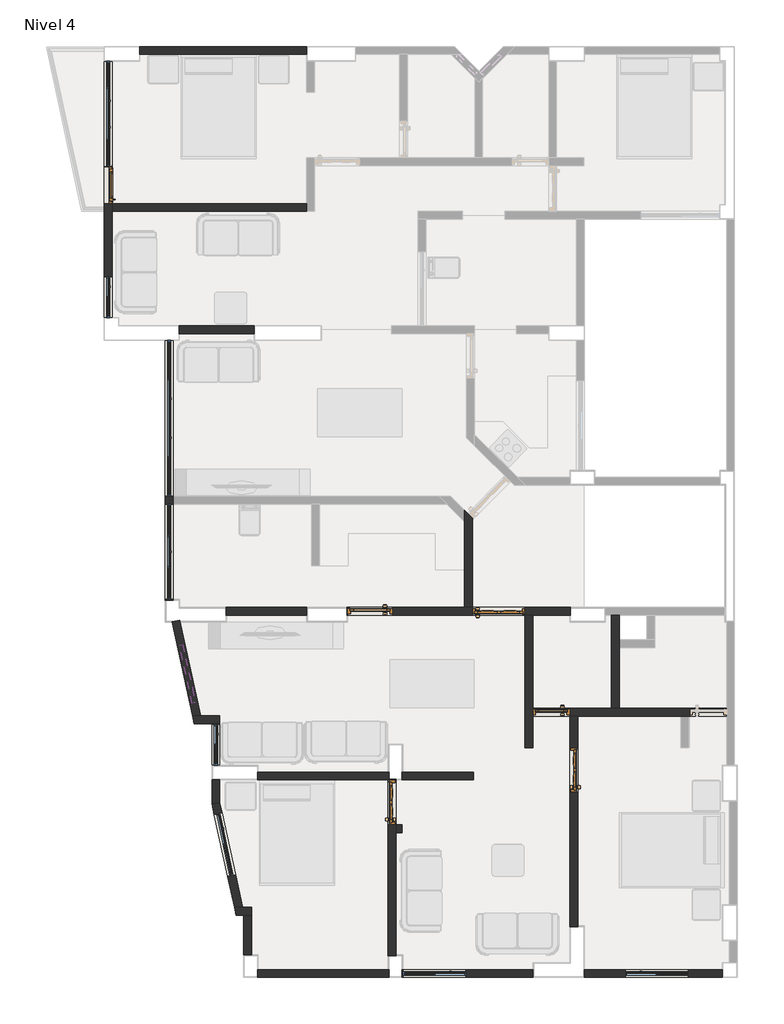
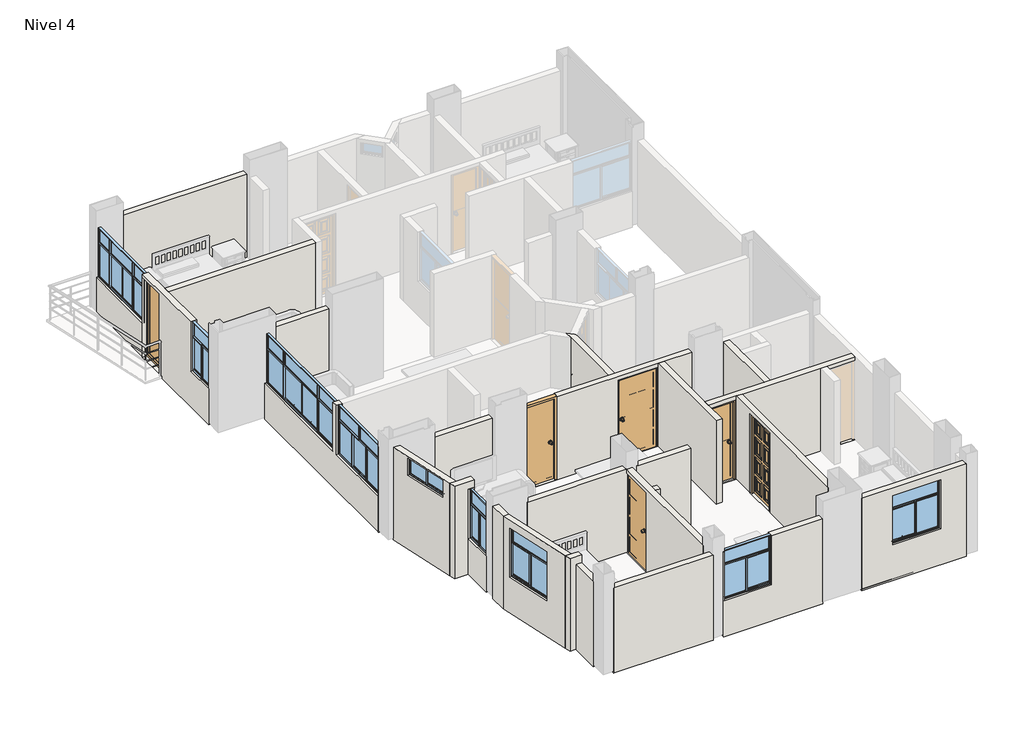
# One storey, part 1 of 4: 26 walls, 9 windows, 6 doors.
"""IFC4 building model written with IfcOpenShell, lengths in millimetres."""

from ifc_helpers import new_model, si_unit, origin, place, context, project, spatial, faceted_brep, transform, mapped, element, save
from components import door_2d542328, door_b74d320c, door_1edce65c, door_bb016787, door_609245de, door_bcd09a2d, p_0_70x2_10_m_3c21dbf0, puerta_interior_pi_0_85x2_10_m_9cadf999, puerta_interior_pi_0_85x2_10_m_c76ccc0d, puerta_interior_pi_0_85x2_10_m_f933acae, puerta_interior_pi_0_85x2_10_m_d21131e5, puerta_interior_pi_0_85x2_10_m_7d8cd98e, puerta_interior_pi_0_85x2_10_m_f147ff4f, puerta_interior_pi_0_85x2_10_m_2af04781, puerta_interior_pi_0_85x2_10_m_c524f691, puerta_interior_pi_1_00x2_10_m_4a7fa07f, puerta_interior_pi_1_00x2_10_m_31410703, puerta_interior_pi_1_00x2_10_m_59491bfe, puerta_interior_pi_1_00x2_10_m_50af7067, va_1_13x0_45_m_8709d312, vb_0_78x1_30_94a928da, vb_1_20x1_30_m_1dcd1d01, vb_1_20x1_30_m_50a12735, vb_1_81x1_30_m_b5e7ee37, vb_2_00x1_30_m_a2a52466, vb_2_96x1_30_m_0cf09963

model = new_model("IFC4")

# Units and contexts
model_context = context("Model", 3, world=origin())
ifc_project = project(units=[si_unit("LENGTHUNIT", "METRE", prefix="MILLI")], contexts=[model_context])

# Site, building, storey
site = spatial("IfcSite", under=ifc_project)
building = spatial("IfcBuilding", under=site)
storey = spatial("IfcBuildingStorey", under=building, Name="Nivel 4", Elevation=8100.0)

# Doors
placement = place(None, origin())
door_shape = door_2d542328(model_context)
door_2_shape = door_b74d320c(model_context)
door_3_shape = door_1edce65c(model_context)
element("IfcDoor", 1, ObjectType="Puerta contraplacada Vaiven : Puerta contraplacada 0.85x2.10 m", at=placement, inside=storey, context=model_context, shape_type="MappedRepresentation", body=[
    mapped(door_shape, transform((2390.0, 6940.0, 8100.0), x_axis=(1.0, 0.0, 0.0), y_axis=(0.0, 1.0, 0.0), z_axis=(0.0, 0.0, 1.0))),
    mapped(door_2_shape, transform((2390.0, 6940.0, 8100.0), x_axis=(1.0, 0.0, 0.0), y_axis=(0.0, 1.0, 0.0), z_axis=(0.0, 0.0, 1.0))),
    mapped(door_3_shape, transform((2390.0, 6940.0, 8100.0), x_axis=(1.0, 0.0, 0.0), y_axis=(0.0, 1.0, 0.0), z_axis=(0.0, 0.0, 1.0))),
])
door_4_shape = door_bb016787(model_context)
door_5_shape = door_609245de(model_context)
door_6_shape = door_bcd09a2d(model_context)
element("IfcDoor", 2, ObjectType="Puerta contraplacada : Puerta contraplacada 0.7x2.10 m", at=placement, inside=storey, context=model_context, shape_type="MappedRepresentation", body=[
    mapped(door_4_shape, transform((5835.0, 5025.0, 8100.0), x_axis=(1.0, 0.0, 0.0), y_axis=(0.0, 1.0, 0.0), z_axis=(0.0, 0.0, 1.0))),
    mapped(door_5_shape, transform((5835.0, 5025.0, 8100.0), x_axis=(1.0, 0.0, 0.0), y_axis=(0.0, 1.0, 0.0), z_axis=(0.0, 0.0, 1.0))),
    mapped(door_6_shape, transform((5835.0, 5025.0, 8100.0), x_axis=(1.0, 0.0, 0.0), y_axis=(0.0, 1.0, 0.0), z_axis=(0.0, 0.0, 1.0))),
])
p_0_70x2_10_m_shape = p_0_70x2_10_m_3c21dbf0(model_context)
element("IfcDoor", 3, ObjectType="Balconera practicable, 1 hoja : P 0.70x2.10 m", at=placement, inside=storey, context=model_context, shape_type="MappedRepresentation", body=[
    mapped(p_0_70x2_10_m_shape, transform((-2590.0, 15033.4801072, 8100.0), x_axis=(0.0, 1.0, 0.0), y_axis=(-1.0, 0.0, 0.0), z_axis=(0.0, 0.0, 1.0))),
])
puerta_interior_pi_0_85x2_10_m_shape = puerta_interior_pi_0_85x2_10_m_9cadf999(model_context)
puerta_interior_pi_0_85x2_10_m_2_shape = puerta_interior_pi_0_85x2_10_m_c76ccc0d(model_context)
puerta_interior_pi_0_85x2_10_m_3_shape = puerta_interior_pi_0_85x2_10_m_f933acae(model_context)
puerta_interior_pi_0_85x2_10_m_4_shape = puerta_interior_pi_0_85x2_10_m_d21131e5(model_context)
element("IfcDoor", 4, ObjectType="Puerta Interior : PI_0.85x2.10 m", at=placement, inside=storey, context=model_context, shape_type="MappedRepresentation", body=[
    mapped(puerta_interior_pi_0_85x2_10_m_shape, transform((2810.0, 3310.0, 8100.0), x_axis=(0.0, -1.0, 0.0), y_axis=(1.0, 0.0, 0.0), z_axis=(0.0, 0.0, 1.0))),
    mapped(puerta_interior_pi_0_85x2_10_m_2_shape, transform((2810.0, 3310.0, 8100.0), x_axis=(0.0, -1.0, 0.0), y_axis=(1.0, 0.0, 0.0), z_axis=(0.0, 0.0, 1.0))),
    mapped(puerta_interior_pi_0_85x2_10_m_3_shape, transform((2810.0, 3310.0, 8100.0), x_axis=(0.0, -1.0, 0.0), y_axis=(1.0, 0.0, 0.0), z_axis=(0.0, 0.0, 1.0))),
    mapped(puerta_interior_pi_0_85x2_10_m_4_shape, transform((2810.0, 3310.0, 8100.0), x_axis=(0.0, -1.0, 0.0), y_axis=(1.0, 0.0, 0.0), z_axis=(0.0, 0.0, 1.0))),
])
puerta_interior_pi_0_85x2_10_m_5_shape = puerta_interior_pi_0_85x2_10_m_7d8cd98e(model_context)
puerta_interior_pi_0_85x2_10_m_6_shape = puerta_interior_pi_0_85x2_10_m_f147ff4f(model_context)
puerta_interior_pi_0_85x2_10_m_7_shape = puerta_interior_pi_0_85x2_10_m_2af04781(model_context)
puerta_interior_pi_0_85x2_10_m_8_shape = puerta_interior_pi_0_85x2_10_m_c524f691(model_context)
element("IfcDoor", 5, ObjectType="Puerta Interior : PI_0.85x2.10 m", at=placement, inside=storey, context=model_context, shape_type="MappedRepresentation", body=[
    mapped(puerta_interior_pi_0_85x2_10_m_5_shape, transform((6260.0, 3924.9505997, 8100.0), x_axis=(0.0, -1.0, 0.0), y_axis=(1.0, 0.0, 0.0), z_axis=(0.0, 0.0, 1.0))),
    mapped(puerta_interior_pi_0_85x2_10_m_6_shape, transform((6260.0, 3924.9505997, 8100.0), x_axis=(0.0, -1.0, 0.0), y_axis=(1.0, 0.0, 0.0), z_axis=(0.0, 0.0, 1.0))),
    mapped(puerta_interior_pi_0_85x2_10_m_7_shape, transform((6260.0, 3924.9505997, 8100.0), x_axis=(0.0, -1.0, 0.0), y_axis=(1.0, 0.0, 0.0), z_axis=(0.0, 0.0, 1.0))),
    mapped(puerta_interior_pi_0_85x2_10_m_8_shape, transform((6260.0, 3924.9505997, 8100.0), x_axis=(0.0, -1.0, 0.0), y_axis=(1.0, 0.0, 0.0), z_axis=(0.0, 0.0, 1.0))),
])
puerta_interior_pi_1_00x2_10_m_shape = puerta_interior_pi_1_00x2_10_m_4a7fa07f(model_context)
puerta_interior_pi_1_00x2_10_m_2_shape = puerta_interior_pi_1_00x2_10_m_31410703(model_context)
puerta_interior_pi_1_00x2_10_m_3_shape = puerta_interior_pi_1_00x2_10_m_59491bfe(model_context)
puerta_interior_pi_1_00x2_10_m_4_shape = puerta_interior_pi_1_00x2_10_m_50af7067(model_context)
element("IfcDoor", 6, ObjectType="Puerta Interior : PI_1.00x2.10 m", at=placement, inside=storey, context=model_context, shape_type="MappedRepresentation", body=[
    mapped(puerta_interior_pi_1_00x2_10_m_shape, transform((4835.0, 6940.0, 8100.0), x_axis=(-1.0, 0.0, 0.0), y_axis=(0.0, -1.0, 0.0), z_axis=(0.0, 0.0, 1.0))),
    mapped(puerta_interior_pi_1_00x2_10_m_2_shape, transform((4835.0, 6940.0, 8100.0), x_axis=(-1.0, 0.0, 0.0), y_axis=(0.0, -1.0, 0.0), z_axis=(0.0, 0.0, 1.0))),
    mapped(puerta_interior_pi_1_00x2_10_m_3_shape, transform((4835.0, 6940.0, 8100.0), x_axis=(-1.0, 0.0, 0.0), y_axis=(0.0, -1.0, 0.0), z_axis=(0.0, 0.0, 1.0))),
    mapped(puerta_interior_pi_1_00x2_10_m_4_shape, transform((4835.0, 6940.0, 8100.0), x_axis=(-1.0, 0.0, 0.0), y_axis=(0.0, -1.0, 0.0), z_axis=(0.0, 0.0, 1.0))),
])

# Walls
element("IfcWall", 7, ObjectType="AMS_Muro Interior-Exterior, e=15 cm", at=placement, inside=storey, context=model_context, shape_type="Brep", body=[
    faceted_brep([(-1985.0, 17515.0, 8050.0), (1185.0, 17515.0, 8050.0), (1185.0, 17515.0, 10300.0), (-1985.0, 17515.0, 10300.0), (-1985.0, 17665.0, 8050.0), (-1985.0, 17665.0, 8100.0), (-1985.0, 17665.0, 10300.0), (1185.0, 17665.0, 10300.0), (1185.0, 17665.0, 8100.0), (1185.0, 17665.0, 8050.0)], [[[0, 1, 2, 3]], [[4, 5, 6, 7, 8, 9]], [[1, 0, 4, 9]], [[2, 1, 9, 8, 7]], [[3, 2, 7, 6]], [[0, 3, 6, 5, 4]]]),
])
element("IfcWall", 8, ObjectType="AMS_Muro Interior-Interior, e=15 cm", at=placement, inside=storey, context=model_context, shape_type="Brep", body=[
    faceted_brep([(1185.0, 14683.4801072, 8050.0), (-2515.0, 14683.4801072, 8050.0), (-2515.0, 14683.4801072, 8100.0), (-2515.0, 14683.4801072, 10200.0), (-2515.0, 14683.4801072, 10300.0), (1185.0, 14683.4801072, 10300.0), (1185.0, 14533.4801072, 8050.0), (1185.0, 14533.4801072, 10300.0), (-2515.0, 14533.4801072, 10300.0), (-2515.0, 14533.4801072, 8050.0)], [[[0, 1, 2, 3, 4, 5]], [[6, 7, 8, 9]], [[1, 0, 6, 9]], [[5, 4, 8, 7]], [[0, 5, 7, 6]], [[4, 3, 2, 1, 9, 8]]]),
])
element("IfcWall", 9, ObjectType="AMS_Muro Interior-Exterior, e=15 cm", at=placement, inside=storey, context=model_context, shape_type="Brep", body=[
    faceted_brep([(-2515.0, 12515.0, 8050.0), (-2515.0, 14533.4801072, 8050.0), (-2515.0, 14683.4801072, 8050.0), (-2515.0, 17385.0, 8050.0), (-2515.0, 17385.0, 9000.0), (-2515.0, 15385.0, 9000.0), (-2515.0, 15385.0, 10300.0), (-2515.0, 14683.4801072, 10300.0), (-2515.0, 14533.4801072, 10300.0), (-2515.0, 13295.0, 10300.0), (-2515.0, 13295.0, 9000.0), (-2515.0, 12515.0, 9000.0), (-2515.0, 15383.4801072, 8100.0), (-2515.0, 14683.4801072, 8100.0), (-2515.0, 14683.4801072, 10200.0), (-2515.0, 15383.4801072, 10200.0), (-2665.0, 17385.0, 8050.0), (-2665.0, 12515.0, 8050.0), (-2665.0, 12515.0, 8100.0), (-2665.0, 12515.0, 9000.0), (-2665.0, 13295.0, 9000.0), (-2665.0, 13295.0, 10300.0), (-2665.0, 15385.0, 10300.0), (-2665.0, 15385.0, 9000.0), (-2665.0, 17385.0, 9000.0), (-2665.0, 17385.0, 8100.0), (-2665.0, 15383.4801072, 8100.0), (-2665.0, 15383.4801072, 10200.0), (-2665.0, 14683.4801072, 10200.0), (-2665.0, 14683.4801072, 8100.0)], [[[0, 1, 2, 3, 4, 5, 6, 7, 8, 9, 10, 11], [12, 13, 14, 15]], [[16, 17, 18, 19, 20, 21, 22, 23, 24, 25], [26, 27, 28, 29]], [[3, 2, 1, 0, 17, 16]], [[3, 16, 25, 24, 4]], [[21, 9, 8, 7, 6, 22]], [[17, 0, 11, 19, 18]], [[20, 10, 9, 21]], [[10, 20, 19, 11]], [[5, 23, 22, 6]], [[23, 5, 4, 24]], [[27, 26, 12, 15]], [[28, 27, 15, 14]], [[29, 28, 14, 13]], [[26, 29, 13, 12]]]),
])
element("IfcWall", 10, ObjectType="AMS_Muro Interior-Interior, e=15 cm", at=placement, inside=storey, context=model_context, shape_type="Brep", body=[
    faceted_brep([(-1235.0, 12215.0, 8050.0), (185.0, 12215.0, 8050.0), (185.0, 12215.0, 10300.0), (-1235.0, 12215.0, 10300.0), (-1235.0, 12365.0, 8050.0), (-1235.0, 12365.0, 8100.0), (-1235.0, 12365.0, 10300.0), (185.0, 12365.0, 10300.0), (185.0, 12365.0, 8100.0), (185.0, 12365.0, 8050.0)], [[[0, 1, 2, 3]], [[4, 5, 6, 7, 8, 9]], [[1, 0, 4, 9]], [[2, 1, 9, 8, 7]], [[3, 2, 7, 6]], [[0, 3, 6, 5, 4]]]),
])
element("IfcWall", 11, ObjectType="AMS_Muro Interior-Interior, e=15 cm", at=placement, inside=storey, context=model_context, shape_type="Brep", body=[
    faceted_brep([(4335.0, 7015.0, 8050.0), (4335.0, 8670.8159799, 8050.0), (4335.0, 8705.2632339, 8050.0), (4335.0, 8705.2632339, 10300.0), (4335.0, 8670.8159799, 10300.0), (4335.0, 7015.0, 10300.0), (4335.0, 7015.0, 10200.0), (4335.0, 7015.0, 8100.0), (4185.0, 7015.0, 8050.0), (4185.0, 7015.0, 10300.0), (4185.0, 8643.1311996, 10300.0), (4185.0, 8855.2632339, 10300.0), (4185.0, 8855.2632339, 8050.0), (4185.0, 8643.1311996, 8050.0), (4246.0541754, 8794.2090586, 8050.0), (4246.0541754, 8794.2090586, 10300.0)], [[[0, 1, 2, 3, 4, 5, 6, 7]], [[8, 9, 10, 11, 12, 13]], [[2, 1, 0, 8, 13, 12, 14]], [[5, 4, 3, 15, 11, 10, 9]], [[3, 2, 14, 12, 11, 15]], [[0, 7, 6, 5, 9, 8]]]),
])
element("IfcWall", 12, ObjectType="AMS_Muro Interior-Exterior, e=15 cm", at=placement, inside=storey, context=model_context, shape_type="Brep", body=[
    faceted_brep([(-1355.0, 7150.0, 8050.0), (-1355.0, 7165.0, 8050.0), (-1355.0, 8975.0, 8050.0), (-1355.0, 9125.0, 8050.0), (-1355.0, 12085.0, 8050.0), (-1355.0, 12085.0, 9000.0), (-1355.0, 9125.0, 9000.0), (-1355.0, 9125.0, 10300.0), (-1355.0, 8975.0, 10300.0), (-1355.0, 8975.0, 9000.0), (-1355.0, 7165.0, 9000.0), (-1355.0, 7165.0, 10300.0), (-1355.0, 7150.0, 10300.0), (-1355.0, 7150.0, 8100.0), (-1505.0, 12085.0, 8050.0), (-1505.0, 7165.0, 8050.0), (-1505.0, 7150.0, 8050.0), (-1505.0, 7150.0, 8100.0), (-1505.0, 7150.0, 10300.0), (-1505.0, 7165.0, 10300.0), (-1505.0, 7165.0, 9000.0), (-1505.0, 8975.0, 9000.0), (-1505.0, 8975.0, 10300.0), (-1505.0, 9125.0, 10300.0), (-1505.0, 9125.0, 9000.0), (-1505.0, 12085.0, 9000.0), (-1490.0, 7150.0, 8050.0), (-1490.0, 7150.0, 10300.0)], [[[0, 1, 2, 3, 4, 5, 6, 7, 8, 9, 10, 11, 12, 13]], [[14, 15, 16, 17, 18, 19, 20, 21, 22, 23, 24, 25]], [[4, 3, 2, 1, 0, 26, 16, 15, 14]], [[4, 14, 25, 5]], [[18, 27, 12, 11, 19]], [[22, 8, 7, 23]], [[0, 13, 12, 27, 18, 17, 16, 26]], [[6, 24, 23, 7]], [[24, 6, 5, 25]], [[22, 21, 9, 8]], [[20, 19, 11, 10]], [[21, 20, 10, 9]]]),
])
element("IfcWall", 13, ObjectType="AMS_Muro Interior-Interior, e=15 cm", at=placement, inside=storey, context=model_context, shape_type="Brep", body=[
    faceted_brep([(5485.0, 4350.0, 8050.0), (5485.0, 4950.0, 8050.0), (5485.0, 5100.0, 8050.0), (5485.0, 6865.0, 8050.0), (5485.0, 6865.0, 10300.0), (5485.0, 5100.0, 10300.0), (5485.0, 4950.0, 10300.0), (5485.0, 4350.0, 10300.0), (5335.0, 4350.0, 8050.0), (5335.0, 4350.0, 10300.0), (5335.0, 6865.0, 10300.0), (5335.0, 6865.0, 10200.0), (5335.0, 6865.0, 8100.0), (5335.0, 6865.0, 8050.0)], [[[0, 1, 2, 3, 4, 5, 6, 7]], [[8, 9, 10, 11, 12, 13]], [[3, 2, 1, 0, 8, 13]], [[7, 6, 5, 4, 10, 9]], [[0, 7, 9, 8]], [[4, 3, 13, 12, 11, 10]]]),
])
element("IfcWall", 14, ObjectType="AMS_Muro Interior-Interior, e=15 cm", at=placement, inside=storey, context=model_context, shape_type="Brep", body=[
    faceted_brep([(1965.0, 6865.0, 8100.0), (1965.0, 6865.0, 10300.0), (1950.0, 6865.0, 10300.0), (1950.0, 6865.0, 8100.0), (1950.0, 6865.0, 8050.0), (1965.0, 6865.0, 8050.0), (5335.0, 6865.0, 8050.0), (5485.0, 6865.0, 8050.0), (6185.0, 6865.0, 8050.0), (6200.0, 6865.0, 8050.0), (6200.0, 6865.0, 8100.0), (6200.0, 6865.0, 10300.0), (6185.0, 6865.0, 10300.0), (5485.0, 6865.0, 10300.0), (5335.0, 6865.0, 10300.0), (2815.0, 6865.0, 10300.0), (2815.0, 6865.0, 8100.0), (4335.0, 6865.0, 8100.0), (4335.0, 6865.0, 10200.0), (5335.0, 6865.0, 10200.0), (5335.0, 6865.0, 8100.0), (1950.0, 7015.0, 10300.0), (1965.0, 7015.0, 10300.0), (1965.0, 7015.0, 8100.0), (2815.0, 7015.0, 8100.0), (2815.0, 7015.0, 10300.0), (4185.0, 7015.0, 10300.0), (4335.0, 7015.0, 10300.0), (6185.0, 7015.0, 10300.0), (6200.0, 7015.0, 10300.0), (6200.0, 7015.0, 8100.0), (6200.0, 7015.0, 8050.0), (6185.0, 7015.0, 8050.0), (4335.0, 7015.0, 8050.0), (4185.0, 7015.0, 8050.0), (1965.0, 7015.0, 8050.0), (1950.0, 7015.0, 8050.0), (1950.0, 7015.0, 8100.0), (4335.0, 7015.0, 8100.0), (5335.0, 7015.0, 8100.0), (5335.0, 7015.0, 10200.0), (4335.0, 7015.0, 10200.0), (1950.0, 7000.0, 8050.0), (6200.0, 7000.0, 8050.0), (6200.0, 7000.0, 10300.0), (1950.0, 7000.0, 10300.0)], [[[0, 1, 2, 3, 4, 5, 6, 7, 8, 9, 10, 11, 12, 13, 14, 15, 16], [17, 18, 19, 20]], [[21, 22, 23, 24, 25, 26, 27, 28, 29, 30, 31, 32, 33, 34, 35, 36, 37], [38, 39, 40, 41]], [[9, 8, 7, 6, 5, 4, 42, 36, 35, 34, 33, 32, 31, 43]], [[11, 10, 9, 43, 31, 30, 29, 44]], [[15, 14, 13, 12, 11, 44, 29, 28, 27, 26, 25]], [[2, 1, 22, 21, 45]], [[4, 3, 2, 45, 21, 37, 36, 42]], [[18, 17, 38, 41]], [[19, 18, 41, 40]], [[20, 19, 40, 39]], [[17, 20, 39, 38]], [[25, 24, 16, 15]], [[23, 22, 1, 0]], [[24, 23, 0, 16]]]),
])
element("IfcWall", 15, ObjectType="AMS_Muro Interior-Interior, e=15 cm", at=placement, inside=storey, context=model_context, shape_type="Brep", body=[
    faceted_brep([(6335.0, 950.0, 8050.0), (6335.0, 965.0, 8050.0), (6335.0, 4950.0, 8050.0), (6335.0, 4950.0, 10300.0), (6335.0, 965.0, 10300.0), (6335.0, 950.0, 10300.0), (6335.0, 950.0, 8100.0), (6335.0, 3499.9505997, 8100.0), (6335.0, 3499.9505997, 10200.0), (6335.0, 4349.9505997, 10200.0), (6335.0, 4349.9505997, 8100.0), (6185.0, 950.0, 8050.0), (6185.0, 950.0, 8100.0), (6185.0, 950.0, 10300.0), (6185.0, 965.0, 10300.0), (6185.0, 4950.0, 10300.0), (6185.0, 4950.0, 10200.0), (6185.0, 4950.0, 8100.0), (6185.0, 4950.0, 8050.0), (6185.0, 965.0, 8050.0), (6185.0, 3499.9505997, 8100.0), (6185.0, 4349.9505997, 8100.0), (6185.0, 4349.9505997, 10200.0), (6185.0, 3499.9505997, 10200.0), (6200.0, 950.0, 8050.0), (6200.0, 950.0, 10300.0)], [[[0, 1, 2, 3, 4, 5, 6], [7, 8, 9, 10]], [[11, 12, 13, 14, 15, 16, 17, 18, 19], [20, 21, 22, 23]], [[2, 1, 0, 24, 11, 19, 18]], [[5, 4, 3, 15, 14, 13, 25]], [[0, 6, 5, 25, 13, 12, 11, 24]], [[3, 2, 18, 17, 16, 15]], [[8, 7, 20, 23]], [[9, 8, 23, 22]], [[10, 9, 22, 21]], [[7, 10, 21, 20]]]),
])
element("IfcWall", 16, ObjectType="AMS_Muro Interior-Interior, e=15 cm", at=placement, inside=storey, context=model_context, shape_type="Brep", body=[
    faceted_brep([(9165.0, 4950.0, 8050.0), (9165.0, 4950.0, 8100.0), (8465.0, 4950.0, 8100.0), (8465.0, 4950.0, 10200.0), (9165.0, 4950.0, 10200.0), (9165.0, 4950.0, 10300.0), (8450.0, 4950.0, 10300.0), (8300.0, 4950.0, 10300.0), (6335.0, 4950.0, 10300.0), (6185.0, 4950.0, 10300.0), (5485.0, 4950.0, 10300.0), (5485.0, 4950.0, 10200.0), (6185.0, 4950.0, 10200.0), (6185.0, 4950.0, 8100.0), (5485.0, 4950.0, 8100.0), (5485.0, 4950.0, 8050.0), (6185.0, 4950.0, 8050.0), (6335.0, 4950.0, 8050.0), (8300.0, 4950.0, 8050.0), (8450.0, 4950.0, 8050.0), (8465.0, 5100.0, 8100.0), (9165.0, 5100.0, 8100.0), (9165.0, 5100.0, 8050.0), (7123.0216492, 5100.0, 8050.0), (6973.0216492, 5100.0, 8050.0), (5485.0, 5100.0, 8050.0), (5485.0, 5100.0, 8100.0), (6185.0, 5100.0, 8100.0), (6185.0, 5100.0, 10200.0), (5485.0, 5100.0, 10200.0), (5485.0, 5100.0, 10300.0), (6973.0216492, 5100.0, 10300.0), (7123.0216492, 5100.0, 10300.0), (9165.0, 5100.0, 10300.0), (9165.0, 5100.0, 10200.0), (8465.0, 5100.0, 10200.0)], [[[0, 1, 2, 3, 4, 5, 6, 7, 8, 9, 10, 11, 12, 13, 14, 15, 16, 17, 18, 19]], [[20, 21, 22, 23, 24, 25, 26, 27, 28, 29, 30, 31, 32, 33, 34, 35]], [[0, 19, 18, 17, 16, 15, 25, 24, 23, 22]], [[10, 9, 8, 7, 6, 5, 33, 32, 31, 30]], [[34, 33, 5, 4]], [[22, 21, 1, 0]], [[10, 30, 29, 11]], [[25, 15, 14, 26]], [[3, 2, 20, 35]], [[4, 3, 35, 34]], [[2, 1, 21, 20]], [[27, 13, 12, 28]], [[28, 12, 11, 29]], [[13, 27, 26, 14]]]),
])
element("IfcWall", 17, ObjectType="AMS_Muro Interior-Interior, e=15 cm", at=placement, inside=storey, context=model_context, shape_type="Brep", body=[
    faceted_brep([(7123.0216492, 5100.0, 8050.0), (7123.0216492, 6250.0, 8050.0), (7123.0216492, 6400.0, 8050.0), (7123.0216492, 6865.0, 8050.0), (7123.0216492, 6865.0, 10300.0), (7123.0216492, 6400.0, 10300.0), (7123.0216492, 6250.0, 10300.0), (7123.0216492, 5100.0, 10300.0), (6973.0216492, 5100.0, 8050.0), (6973.0216492, 5100.0, 10300.0), (6973.0216492, 6865.0, 10300.0), (6973.0216492, 6865.0, 8050.0)], [[[0, 1, 2, 3, 4, 5, 6, 7]], [[8, 9, 10, 11]], [[3, 2, 1, 0, 8, 11]], [[7, 6, 5, 4, 10, 9]], [[4, 3, 11, 10]], [[0, 7, 9, 8]]]),
])
element("IfcWall", 18, ObjectType="AMS_Muro Interior-Interior, e=15 cm", at=placement, inside=storey, context=model_context, shape_type="Brep", body=[
    faceted_brep([(1185.0, 7015.0, 8050.0), (-335.0, 7015.0, 8050.0), (-350.0, 7015.0, 8050.0), (-350.0, 7015.0, 8100.0), (-350.0, 7015.0, 10300.0), (-335.0, 7015.0, 10300.0), (1185.0, 7015.0, 10300.0), (1185.0, 7015.0, 8100.0), (1185.0, 6865.0, 8050.0), (1185.0, 6865.0, 10300.0), (-335.0, 6865.0, 10300.0), (-350.0, 6865.0, 10300.0), (-350.0, 6865.0, 8100.0), (-350.0, 6865.0, 8050.0), (-335.0, 6865.0, 8050.0), (-350.0, 7000.0, 8050.0), (-350.0, 7000.0, 10300.0)], [[[0, 1, 2, 3, 4, 5, 6, 7]], [[8, 9, 10, 11, 12, 13, 14]], [[2, 1, 0, 8, 14, 13, 15]], [[4, 3, 2, 15, 13, 12, 11, 16]], [[6, 5, 4, 16, 11, 10, 9]], [[0, 7, 6, 9, 8]]]),
])
element("IfcWall", 19, ObjectType="AMS_Muro Interior-Interior, e=15 cm", at=placement, inside=storey, context=model_context, shape_type="Brep", body=[
    faceted_brep([(4352.1220375, 3885.0, 8050.0), (3015.0, 3885.0, 8050.0), (3000.0, 3885.0, 8050.0), (3000.0, 3885.0, 8100.0), (3000.0, 3885.0, 10300.0), (3015.0, 3885.0, 10300.0), (4352.1220375, 3885.0, 10300.0), (4352.1220375, 3735.0, 8050.0), (4352.1220375, 3735.0, 10300.0), (3015.0, 3735.0, 10300.0), (3000.0, 3735.0, 10300.0), (3000.0, 3735.0, 8100.0), (3000.0, 3735.0, 8050.0), (3015.0, 3735.0, 8050.0), (3000.0, 3750.0, 8050.0), (3000.0, 3750.0, 10300.0)], [[[0, 1, 2, 3, 4, 5, 6]], [[7, 8, 9, 10, 11, 12, 13]], [[2, 1, 0, 7, 13, 12, 14]], [[4, 3, 2, 14, 12, 11, 10, 15]], [[6, 5, 4, 15, 10, 9, 8]], [[0, 6, 8, 7]]]),
])
element("IfcWall", 20, ObjectType="AMS_Muro Interior-Interior, e=15 cm", at=placement, inside=storey, context=model_context, shape_type="Brep", body=[
    faceted_brep([(2750.0, 3885.0, 8050.0), (2735.0, 3885.0, 8050.0), (265.0, 3885.0, 8050.0), (250.0, 3885.0, 8050.0), (250.0, 3885.0, 8100.0), (250.0, 3885.0, 10300.0), (265.0, 3885.0, 10300.0), (2735.0, 3885.0, 10300.0), (2750.0, 3885.0, 10300.0), (2750.0, 3885.0, 8100.0), (2750.0, 3735.0, 8050.0), (2750.0, 3735.0, 10300.0), (2735.0, 3735.0, 10300.0), (265.0, 3735.0, 10300.0), (250.0, 3735.0, 10300.0), (250.0, 3735.0, 8100.0), (250.0, 3735.0, 8050.0), (265.0, 3735.0, 8050.0), (2735.0, 3735.0, 8050.0), (2750.0, 3750.0, 8050.0), (250.0, 3750.0, 8050.0), (250.0, 3750.0, 10300.0), (2750.0, 3750.0, 10300.0)], [[[0, 1, 2, 3, 4, 5, 6, 7, 8, 9]], [[10, 11, 12, 13, 14, 15, 16, 17, 18]], [[3, 2, 1, 0, 19, 10, 18, 17, 16, 20]], [[5, 4, 3, 20, 16, 15, 14, 21]], [[8, 7, 6, 5, 21, 14, 13, 12, 11, 22]], [[0, 9, 8, 22, 11, 10, 19]]]),
])
element("IfcWall", 21, ObjectType="AMS_Muro Interior-Interior, e=15 cm", at=placement, inside=storey, context=model_context, shape_type="Brep", body=[
    faceted_brep([(2885.0, 400.0, 8050.0), (2885.0, 415.0, 8050.0), (2885.0, 2735.0, 8050.0), (2885.0, 2885.0, 8050.0), (2885.0, 3735.0, 8050.0), (2885.0, 3750.0, 8050.0), (2885.0, 3750.0, 8100.0), (2885.0, 3750.0, 10300.0), (2885.0, 3735.0, 10300.0), (2885.0, 2885.0, 10300.0), (2885.0, 2735.0, 10300.0), (2885.0, 415.0, 10300.0), (2885.0, 400.0, 10300.0), (2885.0, 400.0, 8100.0), (2885.0, 2885.0, 8100.0), (2885.0, 2885.0, 10200.0), (2885.0, 3735.0, 10200.0), (2885.0, 3735.0, 8100.0), (2735.0, 400.0, 8050.0), (2735.0, 400.0, 8100.0), (2735.0, 400.0, 10300.0), (2735.0, 415.0, 10300.0), (2735.0, 3735.0, 10300.0), (2735.0, 3750.0, 10300.0), (2735.0, 3750.0, 8050.0), (2735.0, 3735.0, 8050.0), (2735.0, 415.0, 8050.0), (2735.0, 2885.0, 8100.0), (2735.0, 3735.0, 8100.0), (2735.0, 3735.0, 10200.0), (2735.0, 2885.0, 10200.0), (2750.0, 400.0, 8050.0), (2750.0, 3750.0, 8050.0), (2750.0, 3750.0, 10300.0), (2750.0, 400.0, 10300.0)], [[[0, 1, 2, 3, 4, 5, 6, 7, 8, 9, 10, 11, 12, 13], [14, 15, 16, 17]], [[18, 19, 20, 21, 22, 23, 24, 25, 26], [27, 28, 29, 30]], [[5, 4, 3, 2, 1, 0, 31, 18, 26, 25, 24, 32]], [[7, 6, 5, 32, 24, 23, 33]], [[12, 11, 10, 9, 8, 7, 33, 23, 22, 21, 20, 34]], [[0, 13, 12, 34, 20, 19, 18, 31]], [[15, 14, 27, 30]], [[16, 15, 30, 29]], [[17, 16, 29, 28]], [[14, 17, 28, 27]]]),
])
element("IfcWall", 22, ObjectType="AMS_Muro Interior-Interior, e=15 cm", at=placement, inside=storey, context=model_context, shape_type="Brep", body=[
    faceted_brep([(2885.0, 2735.0, 8050.0), (3000.0, 2735.0, 8050.0), (3000.0, 2735.0, 10300.0), (2885.0, 2735.0, 10300.0), (2885.0, 2885.0, 8050.0), (2885.0, 2885.0, 8100.0), (2885.0, 2885.0, 10200.0), (2885.0, 2885.0, 10300.0), (3000.0, 2885.0, 10300.0), (3000.0, 2885.0, 8050.0)], [[[0, 1, 2, 3]], [[4, 5, 6, 7, 8, 9]], [[1, 0, 4, 9]], [[2, 1, 9, 8]], [[3, 2, 8, 7]], [[0, 3, 7, 6, 5, 4]]]),
])
element("IfcWall", 23, ObjectType="AMS_Muro Interior-Exterior, e=15 cm", at=placement, inside=storey, context=model_context, shape_type="Brep", body=[
    faceted_brep([(2750.0, 135.0, 8050.0), (2735.0, 135.0, 8050.0), (265.0, 135.0, 8050.0), (250.0, 135.0, 8050.0), (250.0, 135.0, 8100.0), (250.0, 135.0, 10300.0), (265.0, 135.0, 10300.0), (2735.0, 135.0, 10300.0), (2750.0, 135.0, 10300.0), (2750.0, 135.0, 8100.0), (2750.0, -15.0, 8050.0), (2750.0, -15.0, 8100.0), (2750.0, -15.0, 10300.0), (2735.0, -15.0, 10300.0), (265.0, -15.0, 10300.0), (250.0, -15.0, 10300.0), (250.0, -15.0, 8100.0), (250.0, -15.0, 8050.0), (265.0, -15.0, 8050.0), (2735.0, -15.0, 8050.0), (2750.0, 0.0, 8050.0), (250.0, 0.0, 8050.0), (250.0, 0.0, 10300.0), (2750.0, 0.0, 10300.0)], [[[0, 1, 2, 3, 4, 5, 6, 7, 8, 9]], [[10, 11, 12, 13, 14, 15, 16, 17, 18, 19]], [[3, 2, 1, 0, 20, 10, 19, 18, 17, 21]], [[5, 4, 3, 21, 17, 16, 15, 22]], [[8, 7, 6, 5, 22, 15, 14, 13, 12, 23]], [[0, 9, 8, 23, 12, 11, 10, 20]]]),
])
element("IfcWall", 24, ObjectType="AMS_Muro Interior-Exterior, e=15 cm", at=placement, inside=storey, context=model_context, shape_type="Brep", body=[
    faceted_brep([(3000.0, 135.0, 10300.0), (3015.0, 135.0, 10300.0), (3015.0, 135.0, 9000.0), (4215.0, 135.0, 9000.0), (4215.0, 135.0, 10300.0), (5485.0, 135.0, 10300.0), (5485.0, 135.0, 8050.0), (3015.0, 135.0, 8050.0), (3000.0, 135.0, 8050.0), (3000.0, 135.0, 8100.0), (3015.0, -15.0, 9000.0), (3015.0, -15.0, 10300.0), (3000.0, -15.0, 10300.0), (3000.0, -15.0, 8100.0), (3000.0, -15.0, 8050.0), (3015.0, -15.0, 8050.0), (5485.0, -15.0, 8050.0), (5485.0, -15.0, 8100.0), (5485.0, -15.0, 10300.0), (4215.0, -15.0, 10300.0), (4215.0, -15.0, 9000.0), (3000.0, 0.0, 8050.0), (3000.0, 0.0, 10300.0)], [[[0, 1, 2, 3, 4, 5, 6, 7, 8, 9]], [[10, 11, 12, 13, 14, 15, 16, 17, 18, 19, 20]], [[8, 7, 6, 16, 15, 14, 21]], [[0, 9, 8, 21, 14, 13, 12, 22]], [[19, 18, 5, 4]], [[12, 11, 1, 0, 22]], [[6, 5, 18, 17, 16]], [[4, 3, 20, 19]], [[2, 1, 11, 10]], [[3, 2, 10, 20]]]),
])
element("IfcWall", 25, ObjectType="AMS_Muro Interior-Exterior, e=15 cm", at=placement, inside=storey, context=model_context, shape_type="Brep", body=[
    faceted_brep([(135.0, 415.0, 8050.0), (135.0, 1170.0, 8050.0), (135.0, 1170.0, 10300.0), (135.0, 415.0, 10300.0), (-15.0, 415.0, 8050.0), (-15.0, 415.0, 8100.0), (-15.0, 415.0, 10300.0), (-15.0, 1170.0, 10300.0), (-15.0, 1170.0, 8050.0)], [[[0, 1, 2, 3]], [[4, 5, 6, 7, 8]], [[1, 0, 4, 8]], [[3, 2, 7, 6]], [[0, 3, 6, 5, 4]], [[2, 1, 8, 7]]]),
])
element("IfcWall", 26, ObjectType="AMS_Muro Interior-Exterior, e=15 cm", at=placement, inside=storey, context=model_context, shape_type="Brep", body=[
    faceted_brep([(135.0, 1320.0, 8050.0), (-35.0804526, 1320.0, 8050.0), (-188.5653574, 1320.0, 8050.0), (-188.5653574, 1320.0, 10500.0), (-35.0804526, 1320.0, 10500.0), (135.0, 1320.0, 10500.0), (135.0, 1170.0, 8050.0), (135.0, 1170.0, 10300.0), (135.0, 1170.0, 10500.0), (-156.044349, 1170.0, 10500.0), (-156.044349, 1170.0, 8050.0), (-15.0, 1170.0, 8050.0)], [[[0, 1, 2, 3, 4, 5]], [[6, 7, 8, 9, 10, 11]], [[2, 1, 0, 6, 11, 10]], [[5, 4, 3, 9, 8]], [[0, 5, 8, 7, 6]], [[3, 2, 10, 9]]]),
])
element("IfcWall", 27, ObjectType="AMS_Muro Interior-Exterior, e=15 cm", at=placement, inside=storey, context=model_context, shape_type="Brep", body=[
    faceted_brep([(-35.0804526, 1320.0, 8050.0), (-465.0, 3302.9622535, 8050.0), (-465.0, 3302.9622535, 10500.0), (-35.0804526, 1320.0, 10500.0), (-423.1760822, 3110.0534854, 9000.0), (-168.9151818, 1937.2997199, 9000.0), (-168.9151818, 1937.2997199, 10300.0), (-423.1760822, 3110.0534854, 10300.0), (-188.5653574, 1320.0, 8050.0), (-188.5653574, 1320.0, 10500.0), (-615.0, 3286.888468, 10500.0), (-615.0, 3286.888468, 8050.0), (-569.7703029, 3078.2708729, 9000.0), (-569.7703029, 3078.2708729, 10300.0), (-315.5094025, 1905.5171074, 10300.0), (-315.5094025, 1905.5171074, 9000.0)], [[[0, 1, 2, 3], [4, 5, 6, 7]], [[8, 9, 10, 11], [12, 13, 14, 15]], [[1, 0, 8, 11]], [[3, 2, 10, 9]], [[0, 3, 9, 8]], [[2, 1, 11, 10]], [[13, 12, 4, 7]], [[14, 13, 7, 6]], [[15, 14, 6, 5]], [[12, 15, 5, 4]]]),
])
element("IfcWall", 28, ObjectType="AMS_Muro Interior-Exterior, e=15 cm", at=placement, inside=storey, context=model_context, shape_type="Brep", body=[
    faceted_brep([(-615.0, 3735.0, 8050.0), (-615.0, 3286.888468, 8050.0), (-615.0, 3286.888468, 10500.0), (-615.0, 3735.0, 10500.0), (-615.0, 3735.0, 8100.0), (-465.0, 3735.0, 8050.0), (-465.0, 3735.0, 10500.0), (-465.0, 3302.9622535, 10500.0), (-465.0, 3302.9622535, 8050.0)], [[[0, 1, 2, 3, 4]], [[5, 6, 7, 8]], [[1, 0, 5, 8]], [[3, 2, 7, 6]], [[0, 4, 3, 6, 5]], [[2, 1, 8, 7]]]),
])
element("IfcWall", 29, ObjectType="AMS_Muro Interior-Exterior, e=15 cm", at=placement, inside=storey, context=model_context, shape_type="Brep", body=[
    faceted_brep([(-465.0, 4015.0, 8050.0), (-465.0, 4800.7253635, 8050.0), (-465.0, 4800.7253635, 10300.0), (-465.0, 4795.0, 10300.0), (-465.0, 4795.0, 9000.0), (-465.0, 4015.0, 9000.0), (-615.0, 4800.7253635, 8050.0), (-615.0, 4015.0, 8050.0), (-615.0, 4015.0, 8100.0), (-615.0, 4015.0, 9000.0), (-615.0, 4795.0, 9000.0), (-615.0, 4795.0, 10300.0), (-615.0, 4800.7253635, 10300.0)], [[[0, 1, 2, 3, 4, 5]], [[6, 7, 8, 9, 10, 11, 12]], [[1, 0, 7, 6]], [[2, 12, 11, 3]], [[7, 0, 5, 9, 8]], [[2, 1, 6, 12]], [[10, 4, 3, 11]], [[4, 10, 9, 5]]]),
])
element("IfcWall", 30, ObjectType="AMS_Muro Interior-Exterior, e=15 cm", at=placement, inside=storey, context=model_context, shape_type="Brep", body=[
    faceted_brep([(-465.0, 4950.7253635, 8050.0), (-830.9414428, 4950.7253635, 8050.0), (-984.410509, 4950.7253635, 8050.0), (-984.410509, 4950.7253635, 10500.0), (-830.9414428, 4950.7253635, 10500.0), (-465.0, 4950.7253635, 10500.0), (-465.0, 4800.7253635, 8050.0), (-465.0, 4800.7253635, 10300.0), (-465.0, 4800.7253635, 10500.0), (-951.964334, 4800.7253635, 10500.0), (-951.964334, 4800.7253635, 8050.0), (-615.0, 4800.7253635, 8050.0)], [[[0, 1, 2, 3, 4, 5]], [[6, 7, 8, 9, 10, 11]], [[2, 1, 0, 6, 11, 10]], [[5, 4, 3, 9, 8]], [[3, 2, 10, 9]], [[0, 5, 8, 7, 6]]]),
])
element("IfcWall", 31, ObjectType="AMS_Muro Interior-Exterior, e=15 cm", at=placement, inside=storey, context=model_context, shape_type="Brep", body=[
    faceted_brep([(-830.9414428, 4950.7253635, 8050.0), (-1216.8940234, 6735.0, 8050.0), (-1220.1386409, 6750.0, 8050.0), (-1225.1285153, 6773.0683942, 8050.0), (-1225.1285153, 6773.0683942, 10500.0), (-1220.1386409, 6750.0, 10500.0), (-1216.8940234, 6735.0, 10500.0), (-830.9414428, 4950.7253635, 10500.0), (-887.7066431, 5213.1532165, 10000.0), (-887.7066431, 5213.1532165, 10450.0), (-1126.6093657, 6317.6103181, 10450.0), (-1126.6093657, 6317.6103181, 10000.0), (-984.410509, 4950.7253635, 8050.0), (-984.410509, 4950.7253635, 10500.0), (-1370.3630896, 6735.0, 10500.0), (-1371.7378651, 6741.3556434, 10500.0), (-1371.7378651, 6741.3556434, 8100.0), (-1371.7378651, 6741.3556434, 8050.0), (-1370.3630896, 6735.0, 8050.0), (-1034.3159929, 5181.4404657, 10000.0), (-1273.2187155, 6285.8975673, 10000.0), (-1273.2187155, 6285.8975673, 10450.0), (-1034.3159929, 5181.4404657, 10450.0), (-1331.7746495, 6750.0, 8050.0), (-1331.7746495, 6750.0, 10500.0)], [[[0, 1, 2, 3, 4, 5, 6, 7], [8, 9, 10, 11]], [[12, 13, 14, 15, 16, 17, 18], [19, 20, 21, 22]], [[3, 2, 1, 0, 12, 18, 17, 23]], [[4, 3, 23, 17, 16, 15, 24]], [[7, 6, 5, 4, 24, 15, 14, 13]], [[0, 7, 13, 12]], [[9, 8, 19, 22]], [[10, 9, 22, 21]], [[11, 10, 21, 20]], [[8, 11, 20, 19]]]),
])
element("IfcWall", 32, ObjectType="AMS_Muro Interior-Exterior, e=15 cm", at=placement, inside=storey, context=model_context, shape_type="Brep", body=[
    faceted_brep([(6465.0, -15.0, 8050.0), (9085.0, -15.0, 8050.0), (9085.0, -15.0, 8100.0), (9085.0, -15.0, 10500.0), (6465.0, -15.0, 10500.0), (6465.0, -15.0, 8100.0), (7240.0, -15.0, 9000.0), (7240.0, -15.0, 10300.0), (8440.0, -15.0, 10300.0), (8440.0, -15.0, 9000.0), (9085.0, 135.0, 8050.0), (6465.0, 135.0, 8050.0), (6465.0, 135.0, 10500.0), (9085.0, 135.0, 10500.0), (7240.0, 135.0, 10300.0), (7240.0, 135.0, 9000.0), (8440.0, 135.0, 9000.0), (8440.0, 135.0, 10300.0)], [[[0, 1, 2, 3, 4, 5], [6, 7, 8, 9]], [[10, 11, 12, 13], [14, 15, 16, 17]], [[1, 0, 11, 10]], [[3, 2, 1, 10, 13]], [[4, 3, 13, 12]], [[0, 5, 4, 12, 11]], [[6, 15, 14, 7]], [[8, 17, 16, 9]], [[15, 6, 9, 16]], [[17, 8, 7, 14]]]),
])

# Windows
va_1_13x0_45_m_shape = va_1_13x0_45_m_8709d312(model_context)
element("IfcWindow", 33, ObjectType="Ventana alta corrediza 2 cuerpos : VA 1.13x0.45 m", at=placement, inside=storey, context=model_context, shape_type="MappedRepresentation", body=[
    mapped(va_1_13x0_45_m_shape, transform((-1080.4626793, 5749.5253919, 8400.0), x_axis=(-0.21141833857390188, 0.9773956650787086, 0.0), y_axis=(-0.9773956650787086, -0.21141833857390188, 0.0), z_axis=(0.0, 0.0, 1.0))),
])
vb_0_78x1_30_shape = vb_0_78x1_30_94a928da(model_context)
element("IfcWindow", 34, ObjectType="Ventana baja corrediza 2 cuerpos : VB 0.78X1.30", at=placement, inside=storey, context=model_context, shape_type="MappedRepresentation", body=[
    mapped(vb_0_78x1_30_shape, transform((-540.0, 4405.0, 8100.0), x_axis=(0.0, -1.0, 0.0), y_axis=(1.0, 0.0, 0.0), z_axis=(0.0, 0.0, 1.0))),
])
element("IfcWindow", 35, ObjectType="Ventana baja corrediza 2 cuerpos : VB 0.95X1.30", at=placement, inside=storey, context=model_context, shape_type="MappedRepresentation", body=[
    mapped(vb_0_78x1_30_shape, transform((-2590.0, 12905.0, 8100.0), x_axis=(0.0, -1.0, 0.0), y_axis=(1.0, 0.0, 0.0), z_axis=(0.0, 0.0, 1.0))),
])
vb_1_20x1_30_m_shape = vb_1_20x1_30_m_1dcd1d01(model_context)
element("IfcWindow", 36, ObjectType="Ventana baja corrediza 2 cuerpos : VB 1.20X1.30 m", at=placement, inside=storey, context=model_context, shape_type="MappedRepresentation", body=[
    mapped(vb_1_20x1_30_m_shape, transform((3615.0, 60.0, 8100.0), x_axis=(-1.0, 0.0, 0.0), y_axis=(0.0, -1.0, 0.0), z_axis=(0.0, 0.0, 1.0))),
])
vb_1_20x1_30_m_2_shape = vb_1_20x1_30_m_50a12735(model_context)
element("IfcWindow", 37, ObjectType="Ventana baja corrediza 2 cuerpos : VB 1.20X1.30 m", at=placement, inside=storey, context=model_context, shape_type="MappedRepresentation", body=[
    mapped(vb_1_20x1_30_m_2_shape, transform((-369.3427424, 2507.7852964, 8100.0), x_axis=(0.21188408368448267, -0.9772948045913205, 0.0), y_axis=(0.9772948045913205, 0.21188408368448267, 0.0), z_axis=(0.0, 0.0, 1.0))),
])
element("IfcWindow", 38, ObjectType="Ventana baja corrediza 2 cuerpos : VB 1.20X1.30 m", at=placement, inside=storey, context=model_context, shape_type="MappedRepresentation", body=[
    mapped(vb_1_20x1_30_m_2_shape, transform((7840.0, 60.0, 8100.0), x_axis=(1.0, 0.0, 0.0), y_axis=(0.0, 1.0, 0.0), z_axis=(0.0, 0.0, 1.0))),
])
vb_1_81x1_30_m_shape = vb_1_81x1_30_m_b5e7ee37(model_context)
element("IfcWindow", 39, ObjectType="Ventana baja corrediza 3 cuerpos : VB 1.81x1.30 m", at=placement, inside=storey, context=model_context, shape_type="MappedRepresentation", body=[
    mapped(vb_1_81x1_30_m_shape, transform((-1430.0, 8070.0, 8100.0), x_axis=(0.0, -1.0, 0.0), y_axis=(1.0, 0.0, 0.0), z_axis=(0.0, 0.0, 1.0))),
])
vb_2_00x1_30_m_shape = vb_2_00x1_30_m_a2a52466(model_context)
element("IfcWindow", 40, ObjectType="Ventana baja corrediza 4 cuerpos : VB 2.00x1.30 m", at=placement, inside=storey, context=model_context, shape_type="MappedRepresentation", body=[
    mapped(vb_2_00x1_30_m_shape, transform((-2590.0, 16385.0, 8100.0), x_axis=(0.0, -1.0, 0.0), y_axis=(1.0, 0.0, 0.0), z_axis=(0.0, 0.0, 1.0))),
])
vb_2_96x1_30_m_shape = vb_2_96x1_30_m_0cf09963(model_context)
element("IfcWindow", 41, ObjectType="Ventana baja corrediza 4 cuerpos : VB 2.96x1.30 m", at=placement, inside=storey, context=model_context, shape_type="MappedRepresentation", body=[
    mapped(vb_2_96x1_30_m_shape, transform((-1430.0, 10605.0, 8100.0), x_axis=(0.0, 1.0, 0.0), y_axis=(-1.0, 0.0, 0.0), z_axis=(0.0, 0.0, 1.0))),
])

save(model, "model.ifc")
